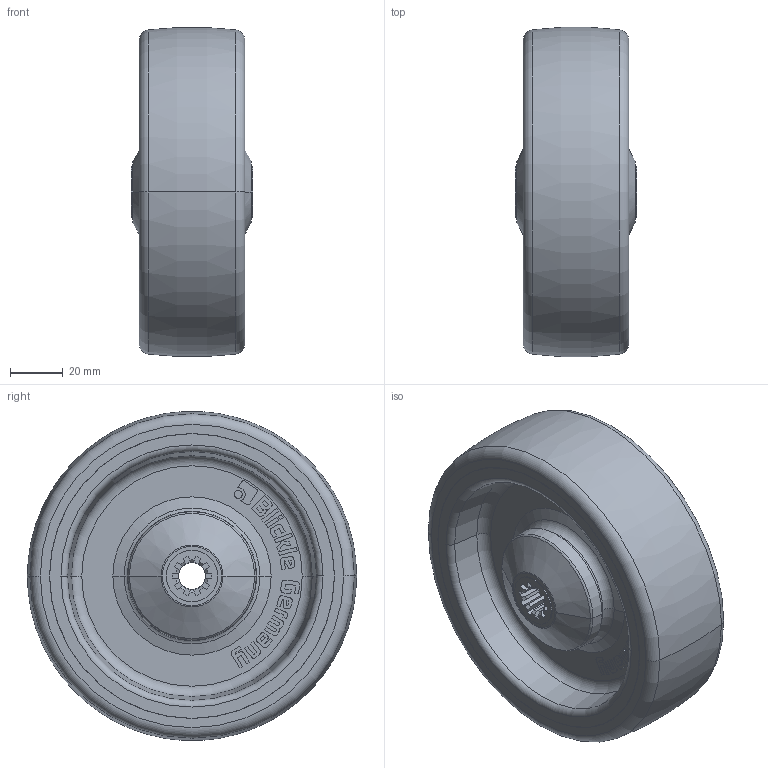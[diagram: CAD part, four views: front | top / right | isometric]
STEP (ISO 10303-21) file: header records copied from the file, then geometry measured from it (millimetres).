
FILE_DESCRIPTION (( 'STEP AP214' ), '1' );
FILE_NAME ('POTH_125_10K_558742-214.step', '2021-10-26T08:07:01', ( '' ), ( '' ), 'SwSTEP 2.0', 'SolidWorks 2018', '' );
FILE_SCHEMA (( 'AUTOMOTIVE_DESIGN' ));
Length unit declared in the file: millimetre
Products named in the file (2): POTH_125_10K_558742-214; POTH_125_10K_G16_3D
Assembly tree (1 placements, depth 2):
  POTH_125_10K_558742-214
    POTH_125_10K_G16_3D
Bounding box: 46 x 124.77 x 124.58 mm (x, y, z)
Volume: 295372.8 mm3; surface area: 69837.2 mm2
Topology: 1 solids, 5 shells, 820 faces, 2138 edges, 1394 vertices
Faces by surface type: plane 416, bspline 206, cylinder 70, torus 68, cone 60
Entity records: 27088 total; most frequent: CARTESIAN_POINT 7500, ORIENTED_EDGE 4276, DIRECTION 3312, EDGE_CURVE 2138, VERTEX_POINT 1394, VECTOR 1296, LINE 1296, AXIS2_PLACEMENT_3D 1008
